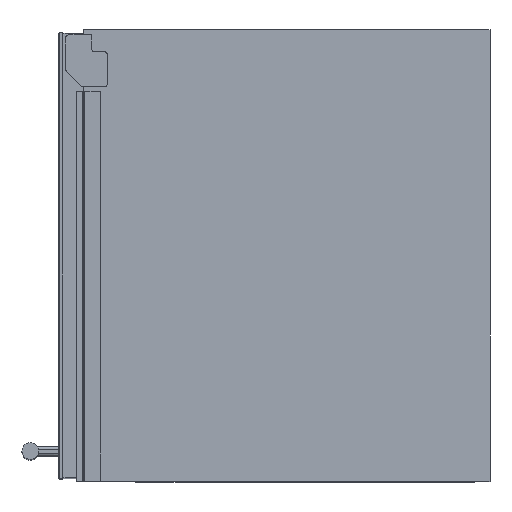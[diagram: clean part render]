
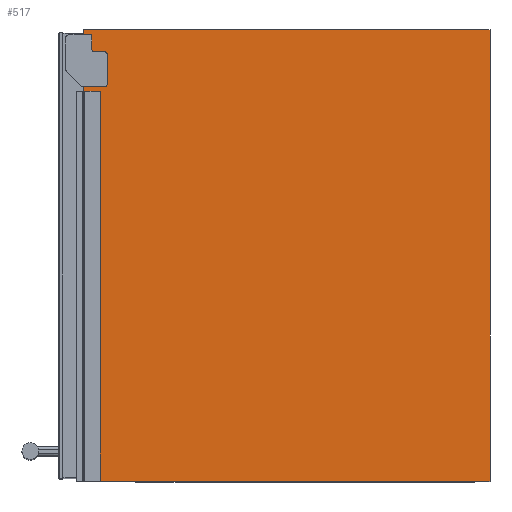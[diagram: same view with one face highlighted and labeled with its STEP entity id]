
A CAD part, top view. The second image highlights one B-rep face of the part: STEP entity #517.
In plain terms, the highlighted planar face has unit normal (0, 0, 1).
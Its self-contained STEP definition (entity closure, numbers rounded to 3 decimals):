
#517=ADVANCED_FACE('',(#830),#687,.F.);
#687=PLANE('',#3391);
#830=FACE_OUTER_BOUND('',#1012,.T.);
#1012=EDGE_LOOP('',(#2000,#2001,#2002,#2003));
#1252=LINE('',#4775,#1509);
#1269=LINE('',#4809,#1526);
#1271=LINE('',#4813,#1528);
#1272=LINE('',#4814,#1529);
#1509=VECTOR('',#3884,1.);
#1526=VECTOR('',#3913,1.);
#1528=VECTOR('',#3917,1.);
#1529=VECTOR('',#3918,1.);
#2000=ORIENTED_EDGE('',*,*,#2925,.T.);
#2001=ORIENTED_EDGE('',*,*,#2906,.F.);
#2002=ORIENTED_EDGE('',*,*,#2926,.F.);
#2003=ORIENTED_EDGE('',*,*,#2923,.T.);
#2581=VERTEX_POINT('',#4769);
#2584=VERTEX_POINT('',#4774);
#2595=VERTEX_POINT('',#4808);
#2596=VERTEX_POINT('',#4810);
#2906=EDGE_CURVE('',#2584,#2581,#1252,.T.);
#2923=EDGE_CURVE('',#2596,#2595,#1269,.T.);
#2925=EDGE_CURVE('',#2595,#2581,#1271,.T.);
#2926=EDGE_CURVE('',#2596,#2584,#1272,.T.);
#3391=AXIS2_PLACEMENT_3D('',#4815,#3919,#3920);
#3884=DIRECTION('',(0.,1.,0.));
#3913=DIRECTION('',(0.,1.,0.));
#3917=DIRECTION('',(-1.,0.,0.));
#3918=DIRECTION('',(-1.,0.,0.));
#3919=DIRECTION('',(0.,0.,-1.));
#3920=DIRECTION('',(-1.,0.,0.));
#4769=CARTESIAN_POINT('',(-536.,297.5,800.));
#4774=CARTESIAN_POINT('',(-536.,-297.5,800.));
#4775=CARTESIAN_POINT('',(-536.,-297.5,800.));
#4808=CARTESIAN_POINT('',(0.,297.5,800.));
#4809=CARTESIAN_POINT('',(0.,-297.5,800.));
#4810=CARTESIAN_POINT('',(0.,-297.5,800.));
#4813=CARTESIAN_POINT('',(0.,297.5,800.));
#4814=CARTESIAN_POINT('',(0.,-297.5,800.));
#4815=CARTESIAN_POINT('',(0.,-297.5,800.));
